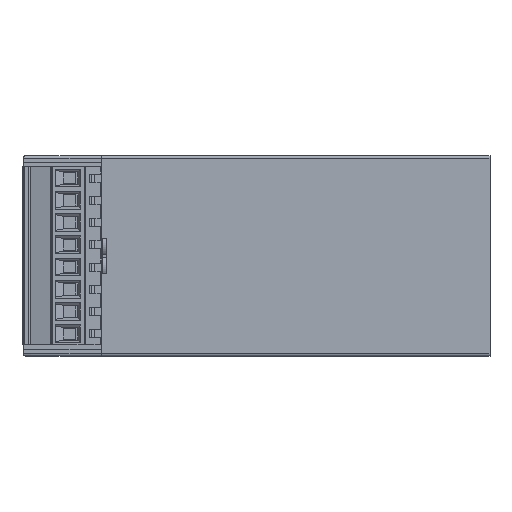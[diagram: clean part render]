
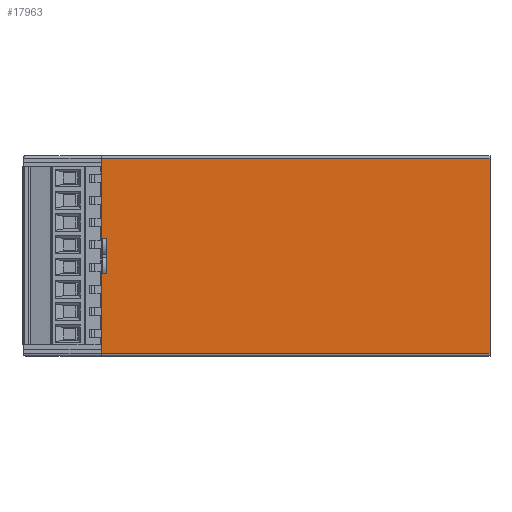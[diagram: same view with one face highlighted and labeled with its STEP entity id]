
A CAD part, left-side view. The second image highlights one B-rep face of the part: STEP entity #17963.
In plain terms, the highlighted planar face has unit normal (-1, 0, 0).
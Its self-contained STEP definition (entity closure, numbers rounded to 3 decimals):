
#806 = DIRECTION ( 'NONE',  ( 0., 0., -1. ) ) ;
#1596 = VECTOR ( 'NONE', #4768, 1000. ) ;
#4160 = VERTEX_POINT ( 'NONE', #36404 ) ;
#4521 = DIRECTION ( 'NONE',  ( 0., -1., 0. ) ) ;
#4768 = DIRECTION ( 'NONE',  ( 0., -1., 0. ) ) ;
#5239 = VERTEX_POINT ( 'NONE', #34173 ) ;
#5648 = DIRECTION ( 'NONE',  ( 0., 0., 1. ) ) ;
#6406 = EDGE_LOOP ( 'NONE', ( #32268, #39259, #9406, #42201, #38118, #32212, #12656, #14643 ) ) ;
#6995 = VECTOR ( 'NONE', #26874, 1000. ) ;
#7371 = LINE ( 'NONE', #8039, #29817 ) ;
#7791 = CARTESIAN_POINT ( 'NONE',  ( -373.133, 238.291, 26.5 ) ) ;
#7960 = EDGE_CURVE ( 'NONE', #4160, #20756, #14355, .T. ) ;
#8039 = CARTESIAN_POINT ( 'NONE',  ( -373.133, 238.291, 0. ) ) ;
#8646 = DIRECTION ( 'NONE',  ( -1., 0., 0. ) ) ;
#8943 = LINE ( 'NONE', #19323, #26671 ) ;
#9406 = ORIENTED_EDGE ( 'NONE', *, *, #23008, .T. ) ;
#9720 = LINE ( 'NONE', #40934, #16887 ) ;
#11194 = DIRECTION ( 'NONE',  ( 0., 0., 1. ) ) ;
#11291 = EDGE_CURVE ( 'NONE', #33394, #4160, #7371, .T. ) ;
#11832 = LINE ( 'NONE', #14977, #1596 ) ;
#12113 = EDGE_CURVE ( 'NONE', #14930, #21237, #9720, .T. ) ;
#12656 = ORIENTED_EDGE ( 'NONE', *, *, #11291, .T. ) ;
#12890 = CARTESIAN_POINT ( 'NONE',  ( -373.133, 237.091, 26.5 ) ) ;
#14355 = LINE ( 'NONE', #28118, #23896 ) ;
#14643 = ORIENTED_EDGE ( 'NONE', *, *, #7960, .T. ) ;
#14930 = VERTEX_POINT ( 'NONE', #23804 ) ;
#14977 = CARTESIAN_POINT ( 'NONE',  ( -373.133, 0., 44.5 ) ) ;
#16240 = VERTEX_POINT ( 'NONE', #27707 ) ;
#16538 = CARTESIAN_POINT ( 'NONE',  ( -373.133, 238.291, 18.5 ) ) ;
#16887 = VECTOR ( 'NONE', #20323, 1000. ) ;
#17963 = ADVANCED_FACE ( 'NONE', ( #29216 ), #18826, .T. ) ;
#18395 = CARTESIAN_POINT ( 'NONE',  ( -373.133, 237.091, -7.597 ) ) ;
#18826 = PLANE ( 'NONE',  #43475 ) ;
#19295 = CARTESIAN_POINT ( 'NONE',  ( -373.133, 150.991, 0.5 ) ) ;
#19323 = CARTESIAN_POINT ( 'NONE',  ( -373.133, 238.291, 0. ) ) ;
#20323 = DIRECTION ( 'NONE',  ( 0., 0., 1. ) ) ;
#20756 = VERTEX_POINT ( 'NONE', #19295 ) ;
#21237 = VERTEX_POINT ( 'NONE', #12890 ) ;
#23008 = EDGE_CURVE ( 'NONE', #16240, #26845, #8943, .T. ) ;
#23343 = EDGE_CURVE ( 'NONE', #20756, #5239, #26899, .T. ) ;
#23804 = CARTESIAN_POINT ( 'NONE',  ( -373.133, 237.091, 18.5 ) ) ;
#23896 = VECTOR ( 'NONE', #41967, 1000. ) ;
#25557 = CARTESIAN_POINT ( 'NONE',  ( -373.133, 0., 18.5 ) ) ;
#26429 = CARTESIAN_POINT ( 'NONE',  ( -373.133, 0., 26.5 ) ) ;
#26671 = VECTOR ( 'NONE', #29724, 1000. ) ;
#26845 = VERTEX_POINT ( 'NONE', #7791 ) ;
#26874 = DIRECTION ( 'NONE',  ( 0., 1., 0. ) ) ;
#26899 = LINE ( 'NONE', #30497, #40450 ) ;
#27707 = CARTESIAN_POINT ( 'NONE',  ( -373.133, 238.291, 44.5 ) ) ;
#28118 = CARTESIAN_POINT ( 'NONE',  ( -373.133, 0., 0.5 ) ) ;
#29216 = FACE_OUTER_BOUND ( 'NONE', #6406, .T. ) ;
#29724 = DIRECTION ( 'NONE',  ( 0., 0., -1. ) ) ;
#29817 = VECTOR ( 'NONE', #806, 1000. ) ;
#30497 = CARTESIAN_POINT ( 'NONE',  ( -373.133, 150.991, 0. ) ) ;
#32212 = ORIENTED_EDGE ( 'NONE', *, *, #38082, .F. ) ;
#32268 = ORIENTED_EDGE ( 'NONE', *, *, #23343, .T. ) ;
#33394 = VERTEX_POINT ( 'NONE', #16538 ) ;
#34173 = CARTESIAN_POINT ( 'NONE',  ( -373.133, 150.991, 44.5 ) ) ;
#34229 = EDGE_CURVE ( 'NONE', #21237, #26845, #44131, .T. ) ;
#35289 = LINE ( 'NONE', #25557, #41112 ) ;
#36404 = CARTESIAN_POINT ( 'NONE',  ( -373.133, 238.291, 0.5 ) ) ;
#38082 = EDGE_CURVE ( 'NONE', #33394, #14930, #35289, .T. ) ;
#38118 = ORIENTED_EDGE ( 'NONE', *, *, #12113, .F. ) ;
#39259 = ORIENTED_EDGE ( 'NONE', *, *, #40848, .F. ) ;
#40450 = VECTOR ( 'NONE', #5648, 1000. ) ;
#40848 = EDGE_CURVE ( 'NONE', #16240, #5239, #11832, .T. ) ;
#40934 = CARTESIAN_POINT ( 'NONE',  ( -373.133, 237.091, 0. ) ) ;
#41112 = VECTOR ( 'NONE', #4521, 1000. ) ;
#41967 = DIRECTION ( 'NONE',  ( 0., -1., 0. ) ) ;
#42201 = ORIENTED_EDGE ( 'NONE', *, *, #34229, .F. ) ;
#43475 = AXIS2_PLACEMENT_3D ( 'NONE', #18395, #8646, #11194 ) ;
#44131 = LINE ( 'NONE', #26429, #6995 ) ;
